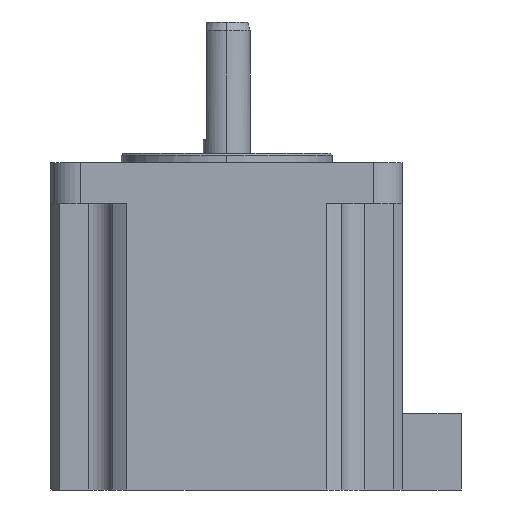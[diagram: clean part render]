
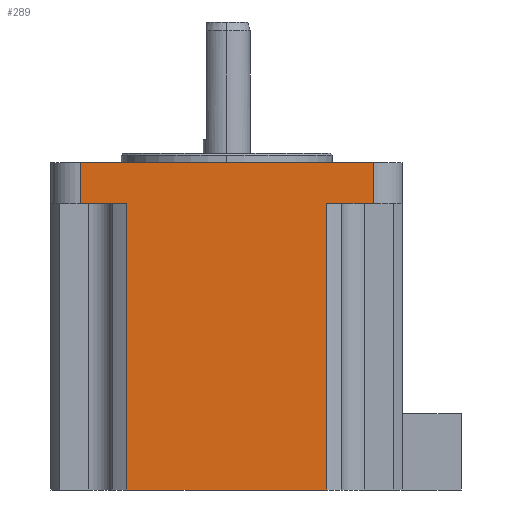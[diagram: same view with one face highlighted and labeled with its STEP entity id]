
A CAD part, left-side view. The second image highlights one B-rep face of the part: STEP entity #289.
In plain terms, the highlighted planar face has unit normal (-1, 0, 0).
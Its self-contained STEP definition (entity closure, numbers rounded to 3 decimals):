
#77 = CARTESIAN_POINT ( 'NONE',  ( -30., -25., -8.6 ) ) ;
#91 = CARTESIAN_POINT ( 'NONE',  ( -30., 30., -8.6 ) ) ;
#95 = VECTOR ( 'NONE', #2078, 1000. ) ;
#108 = EDGE_CURVE ( 'NONE', #1296, #1704, #600, .T. ) ;
#156 = CARTESIAN_POINT ( 'NONE',  ( -30., -17.037, -57.4 ) ) ;
#162 = DIRECTION ( 'NONE',  ( 0., 1., 0. ) ) ;
#254 = VECTOR ( 'NONE', #1644, 1000. ) ;
#287 = ORIENTED_EDGE ( 'NONE', *, *, #1278, .T. ) ;
#289 = ADVANCED_FACE ( 'NONE', ( #912 ), #2150, .F. ) ;
#297 = ORIENTED_EDGE ( 'NONE', *, *, #1803, .F. ) ;
#329 = LINE ( 'NONE', #91, #751 ) ;
#355 = VERTEX_POINT ( 'NONE', #889 ) ;
#375 = LINE ( 'NONE', #156, #95 ) ;
#378 = ORIENTED_EDGE ( 'NONE', *, *, #599, .F. ) ;
#379 = CARTESIAN_POINT ( 'NONE',  ( -30., 30., -1.6 ) ) ;
#406 = VERTEX_POINT ( 'NONE', #1426 ) ;
#441 = VECTOR ( 'NONE', #162, 1000. ) ;
#530 = ORIENTED_EDGE ( 'NONE', *, *, #1126, .F. ) ;
#585 = AXIS2_PLACEMENT_3D ( 'NONE', #1917, #1699, #1471 ) ;
#595 = LINE ( 'NONE', #1863, #1239 ) ;
#599 = EDGE_CURVE ( 'NONE', #1792, #406, #329, .T. ) ;
#600 = LINE ( 'NONE', #379, #441 ) ;
#605 = LINE ( 'NONE', #1871, #254 ) ;
#685 = DIRECTION ( 'NONE',  ( 0., 0., 1. ) ) ;
#751 = VECTOR ( 'NONE', #2026, 1000. ) ;
#842 = CARTESIAN_POINT ( 'NONE',  ( -30., 25., -1.6 ) ) ;
#887 = DIRECTION ( 'NONE',  ( 0., 0., -1. ) ) ;
#889 = CARTESIAN_POINT ( 'NONE',  ( -30., -17.037, -8.6 ) ) ;
#896 = CARTESIAN_POINT ( 'NONE',  ( -30., 17.037, -57.4 ) ) ;
#912 = FACE_OUTER_BOUND ( 'NONE', #1136, .T. ) ;
#929 = ORIENTED_EDGE ( 'NONE', *, *, #108, .T. ) ;
#952 = EDGE_CURVE ( 'NONE', #1923, #1296, #595, .T. ) ;
#1011 = VECTOR ( 'NONE', #887, 1000. ) ;
#1026 = ORIENTED_EDGE ( 'NONE', *, *, #1633, .T. ) ;
#1100 = CARTESIAN_POINT ( 'NONE',  ( -30., 25., -8.6 ) ) ;
#1118 = CARTESIAN_POINT ( 'NONE',  ( -30., 17.037, -8.6 ) ) ;
#1126 = EDGE_CURVE ( 'NONE', #1480, #1971, #2008, .T. ) ;
#1136 = EDGE_LOOP ( 'NONE', ( #1994, #1257, #929, #1026, #378, #297, #530, #287 ) ) ;
#1212 = VECTOR ( 'NONE', #1547, 1000. ) ;
#1239 = VECTOR ( 'NONE', #1636, 1000. ) ;
#1257 = ORIENTED_EDGE ( 'NONE', *, *, #952, .T. ) ;
#1278 = EDGE_CURVE ( 'NONE', #1480, #355, #375, .T. ) ;
#1296 = VERTEX_POINT ( 'NONE', #2029 ) ;
#1313 = LINE ( 'NONE', #1100, #1011 ) ;
#1324 = LINE ( 'NONE', #896, #1954 ) ;
#1413 = EDGE_CURVE ( 'NONE', #1923, #355, #605, .T. ) ;
#1426 = CARTESIAN_POINT ( 'NONE',  ( -30., 25., -8.6 ) ) ;
#1471 = DIRECTION ( 'NONE',  ( 0., 1., 0. ) ) ;
#1480 = VERTEX_POINT ( 'NONE', #1977 ) ;
#1547 = DIRECTION ( 'NONE',  ( 0., 1., 0. ) ) ;
#1633 = EDGE_CURVE ( 'NONE', #1704, #406, #1313, .T. ) ;
#1636 = DIRECTION ( 'NONE',  ( 0., 0., 1. ) ) ;
#1644 = DIRECTION ( 'NONE',  ( 0., 1., 0. ) ) ;
#1699 = DIRECTION ( 'NONE',  ( 1., 0., 0. ) ) ;
#1704 = VERTEX_POINT ( 'NONE', #842 ) ;
#1790 = CARTESIAN_POINT ( 'NONE',  ( -30., 0., -57.4 ) ) ;
#1792 = VERTEX_POINT ( 'NONE', #1118 ) ;
#1803 = EDGE_CURVE ( 'NONE', #1971, #1792, #1324, .T. ) ;
#1863 = CARTESIAN_POINT ( 'NONE',  ( -30., -25., -8.6 ) ) ;
#1871 = CARTESIAN_POINT ( 'NONE',  ( -30., 30., -8.6 ) ) ;
#1900 = CARTESIAN_POINT ( 'NONE',  ( -30., 17.037, -57.4 ) ) ;
#1917 = CARTESIAN_POINT ( 'NONE',  ( -30., 30., -8.6 ) ) ;
#1923 = VERTEX_POINT ( 'NONE', #77 ) ;
#1954 = VECTOR ( 'NONE', #685, 1000. ) ;
#1971 = VERTEX_POINT ( 'NONE', #1900 ) ;
#1977 = CARTESIAN_POINT ( 'NONE',  ( -30., -17.037, -57.4 ) ) ;
#1994 = ORIENTED_EDGE ( 'NONE', *, *, #1413, .F. ) ;
#2008 = LINE ( 'NONE', #1790, #1212 ) ;
#2026 = DIRECTION ( 'NONE',  ( 0., 1., 0. ) ) ;
#2029 = CARTESIAN_POINT ( 'NONE',  ( -30., -25., -1.6 ) ) ;
#2078 = DIRECTION ( 'NONE',  ( 0., 0., 1. ) ) ;
#2150 = PLANE ( 'NONE',  #585 ) ;
